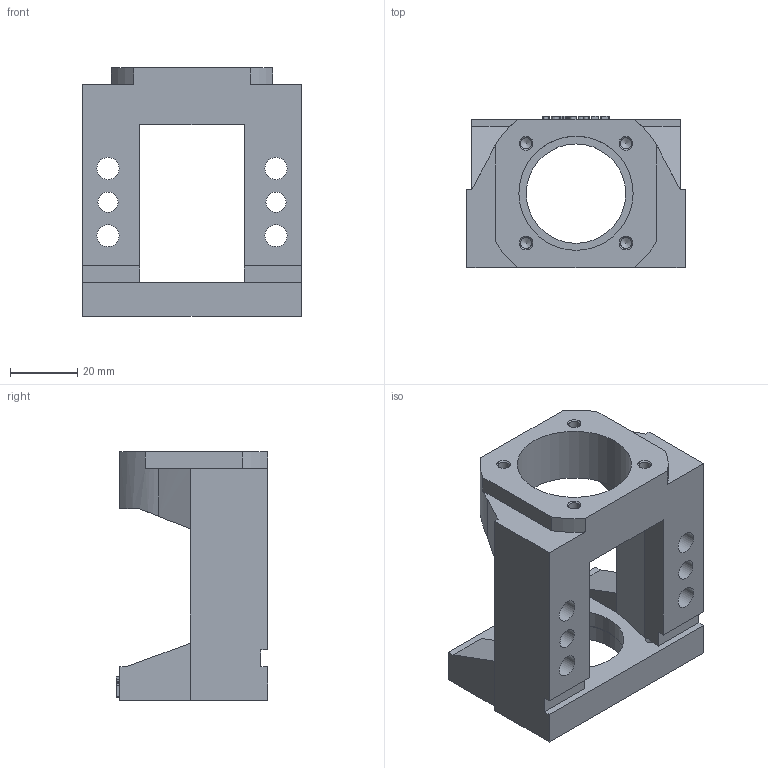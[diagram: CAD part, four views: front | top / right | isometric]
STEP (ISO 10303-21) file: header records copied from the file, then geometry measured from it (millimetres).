
FILE_DESCRIPTION(/* description */ (''),/* implementation_level */ '2;1');
FILE_NAME(/* name */ 'M38A-FK10-A.stp',/* time_stamp */ '2016-10-27T09:52:19+08:00',/* author */ (''),/* organization */ (''),/* preprocessor_version */ 'ST-DEVELOPER v15',/* originating_system */ 'SIEMENS PLM Software NX 8.5',/* authorisation */ '');
FILE_SCHEMA (('CONFIG_CONTROL_DESIGN'));
Length unit declared in the file: millimetre
Products named in the file (1): MBA10-A
Bounding box: 65 x 45 x 74 mm (x, y, z)
Volume: 77059.5 mm3; surface area: 25152.6 mm2
Topology: 1 solids, 1 shells, 186 faces, 507 edges, 335 vertices
Faces by surface type: plane 102, extrusion 41, cylinder 29, cone 14
Full cylindrical faces by diameter (mm): 2.6 x4, 3.3 x4, 6 x2, 6.6 x6, 11 x4, 29.6 x1, 30 x1, 34 x1
Entity records: 6182 total; most frequent: CARTESIAN_POINT 1925, ORIENTED_EDGE 898, DIRECTION 662, EDGE_CURVE 449, VERTEX_POINT 320, EDGE_LOOP 261, VECTOR 234, B_SPLINE_CURVE_WITH_KNOTS 225
